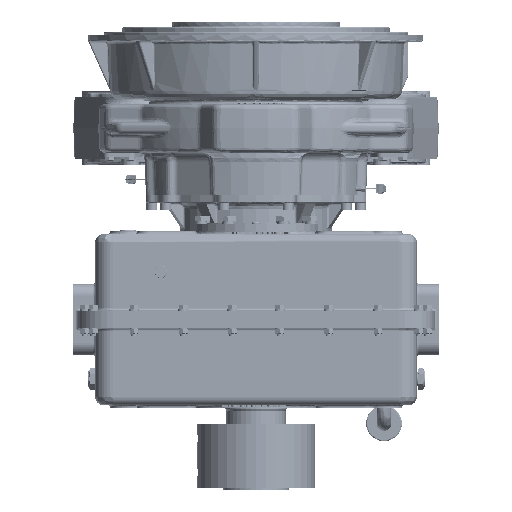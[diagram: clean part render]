
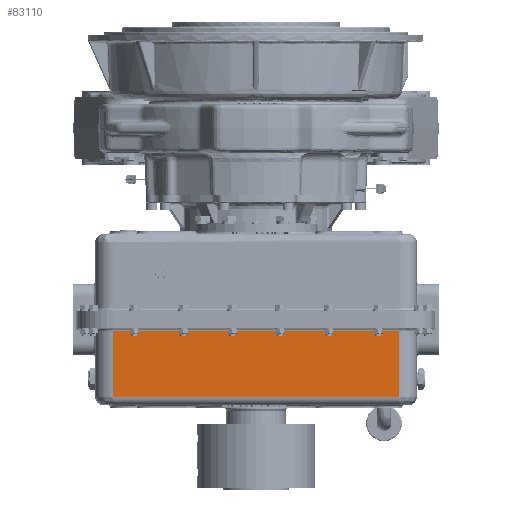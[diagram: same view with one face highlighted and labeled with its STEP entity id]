
A CAD part, front view. The second image highlights one B-rep face of the part: STEP entity #83110.
In plain terms, the highlighted planar face has unit normal (0, -1, 0) by its records, which use the part's own axes.
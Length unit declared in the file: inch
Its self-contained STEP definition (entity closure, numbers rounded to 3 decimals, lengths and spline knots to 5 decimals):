
#9322 = ORIENTED_EDGE ( 'NONE', *, *, #161136, .F. ) ;
#42639 = CARTESIAN_POINT ( 'NONE',  ( 12., -12.5, -7.188 ) ) ;
#63838 = VERTEX_POINT ( 'NONE', #98001 ) ;
#83110 = ADVANCED_FACE ( 'NONE', ( #172769 ), #385594, .T. ) ;
#98001 = CARTESIAN_POINT ( 'NONE',  ( 12., -12.5, -6.508 ) ) ;
#100136 = DIRECTION ( 'NONE',  ( 0., 0., -1. ) ) ;
#102523 = CARTESIAN_POINT ( 'NONE',  ( 12.03927, -12.5, -6.508 ) ) ;
#137480 = CARTESIAN_POINT ( 'NONE',  ( -12., -12.5, -7.188 ) ) ;
#154703 = VECTOR ( 'NONE', #287973, 39.37008 ) ;
#161136 = EDGE_CURVE ( 'NONE', #63838, #600435, #318786, .T. ) ;
#172769 = FACE_OUTER_BOUND ( 'NONE', #474521, .T. ) ;
#197134 = CARTESIAN_POINT ( 'NONE',  ( -12., -12.5, -0.93 ) ) ;
#272868 = ORIENTED_EDGE ( 'NONE', *, *, #364785, .T. ) ;
#287973 = DIRECTION ( 'NONE',  ( -1., 0., 0. ) ) ;
#310343 = DIRECTION ( 'NONE',  ( 0., 0., 1. ) ) ;
#318656 = VERTEX_POINT ( 'NONE', #593082 ) ;
#318786 = LINE ( 'NONE', #102523, #623172 ) ;
#327897 = LINE ( 'NONE', #711545, #614322 ) ;
#331669 = VERTEX_POINT ( 'NONE', #197134 ) ;
#339476 = CARTESIAN_POINT ( 'NONE',  ( -12., -12.5, -6.508 ) ) ;
#342991 = CARTESIAN_POINT ( 'NONE',  ( 12., -12.5, -0.93 ) ) ;
#364785 = EDGE_CURVE ( 'NONE', #318656, #331669, #477516, .T. ) ;
#385594 = PLANE ( 'NONE',  #494238 ) ;
#443116 = DIRECTION ( 'NONE',  ( 0., -1., 0. ) ) ;
#448858 = ORIENTED_EDGE ( 'NONE', *, *, #536314, .F. ) ;
#474521 = EDGE_LOOP ( 'NONE', ( #448858, #9322, #528225, #272868 ) ) ;
#477516 = LINE ( 'NONE', #342991, #154703 ) ;
#494238 = AXIS2_PLACEMENT_3D ( 'NONE', #42639, #443116, #100136 ) ;
#519479 = LINE ( 'NONE', #137480, #689691 ) ;
#528225 = ORIENTED_EDGE ( 'NONE', *, *, #697817, .T. ) ;
#536314 = EDGE_CURVE ( 'NONE', #600435, #331669, #519479, .T. ) ;
#560520 = DIRECTION ( 'NONE',  ( -1., 0., 0. ) ) ;
#593082 = CARTESIAN_POINT ( 'NONE',  ( 12., -12.5, -0.93 ) ) ;
#600435 = VERTEX_POINT ( 'NONE', #339476 ) ;
#614322 = VECTOR ( 'NONE', #653923, 39.37008 ) ;
#623172 = VECTOR ( 'NONE', #560520, 39.37008 ) ;
#653923 = DIRECTION ( 'NONE',  ( 0., 0., 1. ) ) ;
#689691 = VECTOR ( 'NONE', #310343, 39.37008 ) ;
#697817 = EDGE_CURVE ( 'NONE', #63838, #318656, #327897, .T. ) ;
#711545 = CARTESIAN_POINT ( 'NONE',  ( 12., -12.5, -7.188 ) ) ;
